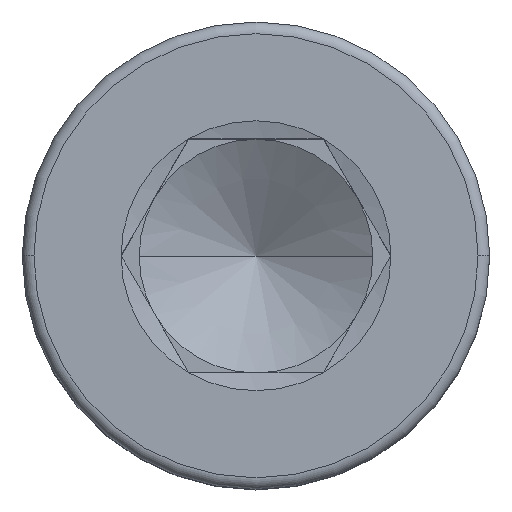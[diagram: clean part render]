
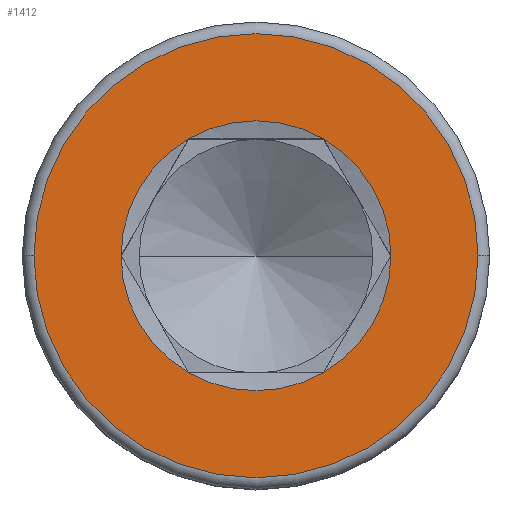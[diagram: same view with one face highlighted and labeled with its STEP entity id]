
A CAD part, top view. The second image highlights one B-rep face of the part: STEP entity #1412.
In plain terms, the highlighted planar face has unit normal (0, 0, 1).
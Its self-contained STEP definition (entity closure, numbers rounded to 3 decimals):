
#8 = DIRECTION ( 'NONE',  ( 1., 0., 0. ) ) ;
#46 = CIRCLE ( 'NONE', #871, 2.887 ) ;
#64 = VERTEX_POINT ( 'NONE', #472 ) ;
#69 = DIRECTION ( 'NONE',  ( 1., 0., 0. ) ) ;
#125 = AXIS2_PLACEMENT_3D ( 'NONE', #691, #1481, #641 ) ;
#134 = DIRECTION ( 'NONE',  ( 1., 0., 0. ) ) ;
#158 = ORIENTED_EDGE ( 'NONE', *, *, #852, .F. ) ;
#185 = CARTESIAN_POINT ( 'NONE',  ( 1.443, 2.5, 6. ) ) ;
#192 = CARTESIAN_POINT ( 'NONE',  ( -1.443, -2.5, 6. ) ) ;
#271 = EDGE_CURVE ( 'NONE', #936, #919, #1031, .T. ) ;
#285 = AXIS2_PLACEMENT_3D ( 'NONE', #504, #1026, #134 ) ;
#320 = DIRECTION ( 'NONE',  ( 1., 0., 0. ) ) ;
#324 = CARTESIAN_POINT ( 'NONE',  ( 0., 0., 6. ) ) ;
#325 = CARTESIAN_POINT ( 'NONE',  ( 0., 0., 6. ) ) ;
#354 = PLANE ( 'NONE',  #697 ) ;
#370 = EDGE_CURVE ( 'NONE', #763, #921, #398, .T. ) ;
#398 = CIRCLE ( 'NONE', #1387, 2.887 ) ;
#469 = DIRECTION ( 'NONE',  ( 1., 0., 0. ) ) ;
#472 = CARTESIAN_POINT ( 'NONE',  ( 1.443, -2.5, 6. ) ) ;
#473 = VERTEX_POINT ( 'NONE', #1398 ) ;
#478 = DIRECTION ( 'NONE',  ( 1., 0., 0. ) ) ;
#504 = CARTESIAN_POINT ( 'NONE',  ( 0., 0., 6. ) ) ;
#556 = DIRECTION ( 'NONE',  ( 0., 0., 1. ) ) ;
#606 = DIRECTION ( 'NONE',  ( 0., 0., 1. ) ) ;
#641 = DIRECTION ( 'NONE',  ( 1., 0., 0. ) ) ;
#667 = DIRECTION ( 'NONE',  ( 1., 0., 0. ) ) ;
#670 = AXIS2_PLACEMENT_3D ( 'NONE', #325, #835, #469 ) ;
#675 = DIRECTION ( 'NONE',  ( 0., 0., 1. ) ) ;
#691 = CARTESIAN_POINT ( 'NONE',  ( 0., 0., 6. ) ) ;
#697 = AXIS2_PLACEMENT_3D ( 'NONE', #324, #724, #69 ) ;
#724 = DIRECTION ( 'NONE',  ( 0., 0., 1. ) ) ;
#733 = ORIENTED_EDGE ( 'NONE', *, *, #370, .F. ) ;
#734 = CARTESIAN_POINT ( 'NONE',  ( 0., 0., 6. ) ) ;
#749 = ORIENTED_EDGE ( 'NONE', *, *, #1116, .F. ) ;
#763 = VERTEX_POINT ( 'NONE', #1372 ) ;
#768 = VERTEX_POINT ( 'NONE', #1228 ) ;
#790 = ORIENTED_EDGE ( 'NONE', *, *, #1310, .T. ) ;
#807 = CIRCLE ( 'NONE', #285, 2.887 ) ;
#823 = DIRECTION ( 'NONE',  ( 0., 0., 1. ) ) ;
#827 = CARTESIAN_POINT ( 'NONE',  ( 0., 0., 6. ) ) ;
#831 = ORIENTED_EDGE ( 'NONE', *, *, #1185, .F. ) ;
#834 = CIRCLE ( 'NONE', #957, 4.75 ) ;
#835 = DIRECTION ( 'NONE',  ( 0., 0., 1. ) ) ;
#852 = EDGE_CURVE ( 'NONE', #1289, #64, #1543, .T. ) ;
#864 = EDGE_CURVE ( 'NONE', #64, #936, #807, .T. ) ;
#871 = AXIS2_PLACEMENT_3D ( 'NONE', #734, #606, #1256 ) ;
#872 = EDGE_LOOP ( 'NONE', ( #790, #1215 ) ) ;
#894 = ORIENTED_EDGE ( 'NONE', *, *, #864, .F. ) ;
#918 = EDGE_CURVE ( 'NONE', #473, #768, #834, .T. ) ;
#919 = VERTEX_POINT ( 'NONE', #185 ) ;
#921 = VERTEX_POINT ( 'NONE', #1626 ) ;
#936 = VERTEX_POINT ( 'NONE', #1364 ) ;
#944 = EDGE_LOOP ( 'NONE', ( #1587, #894, #158, #831, #733, #749 ) ) ;
#957 = AXIS2_PLACEMENT_3D ( 'NONE', #827, #556, #320 ) ;
#988 = CIRCLE ( 'NONE', #670, 4.75 ) ;
#1026 = DIRECTION ( 'NONE',  ( 0., 0., 1. ) ) ;
#1031 = CIRCLE ( 'NONE', #1164, 2.887 ) ;
#1037 = AXIS2_PLACEMENT_3D ( 'NONE', #1560, #823, #8 ) ;
#1116 = EDGE_CURVE ( 'NONE', #919, #763, #46, .T. ) ;
#1164 = AXIS2_PLACEMENT_3D ( 'NONE', #1690, #675, #667 ) ;
#1185 = EDGE_CURVE ( 'NONE', #921, #1289, #1525, .T. ) ;
#1215 = ORIENTED_EDGE ( 'NONE', *, *, #918, .T. ) ;
#1228 = CARTESIAN_POINT ( 'NONE',  ( 4.75, 0., 6. ) ) ;
#1256 = DIRECTION ( 'NONE',  ( 1., 0., 0. ) ) ;
#1289 = VERTEX_POINT ( 'NONE', #192 ) ;
#1310 = EDGE_CURVE ( 'NONE', #768, #473, #988, .T. ) ;
#1364 = CARTESIAN_POINT ( 'NONE',  ( 2.887, 0., 6. ) ) ;
#1372 = CARTESIAN_POINT ( 'NONE',  ( -1.443, 2.5, 6. ) ) ;
#1387 = AXIS2_PLACEMENT_3D ( 'NONE', #1636, #1603, #478 ) ;
#1398 = CARTESIAN_POINT ( 'NONE',  ( -4.75, 0., 6. ) ) ;
#1412 = ADVANCED_FACE ( 'NONE', ( #1649, #1631 ), #354, .T. ) ;
#1481 = DIRECTION ( 'NONE',  ( 0., 0., 1. ) ) ;
#1525 = CIRCLE ( 'NONE', #1037, 2.887 ) ;
#1543 = CIRCLE ( 'NONE', #125, 2.887 ) ;
#1560 = CARTESIAN_POINT ( 'NONE',  ( 0., 0., 6. ) ) ;
#1587 = ORIENTED_EDGE ( 'NONE', *, *, #271, .F. ) ;
#1603 = DIRECTION ( 'NONE',  ( 0., 0., 1. ) ) ;
#1626 = CARTESIAN_POINT ( 'NONE',  ( -2.887, 0., 6. ) ) ;
#1631 = FACE_BOUND ( 'NONE', #944, .T. ) ;
#1636 = CARTESIAN_POINT ( 'NONE',  ( 0., 0., 6. ) ) ;
#1649 = FACE_OUTER_BOUND ( 'NONE', #872, .T. ) ;
#1690 = CARTESIAN_POINT ( 'NONE',  ( 0., 0., 6. ) ) ;
